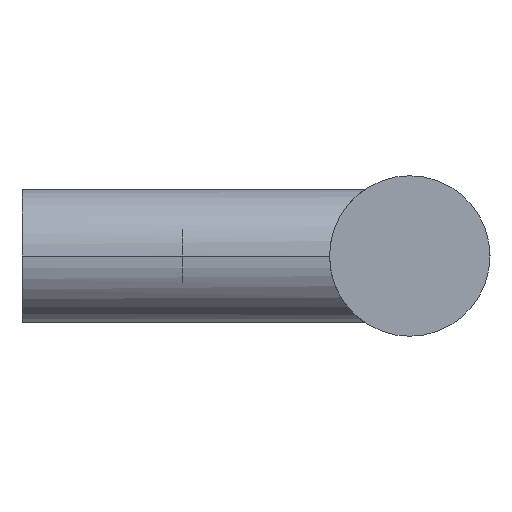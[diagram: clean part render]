
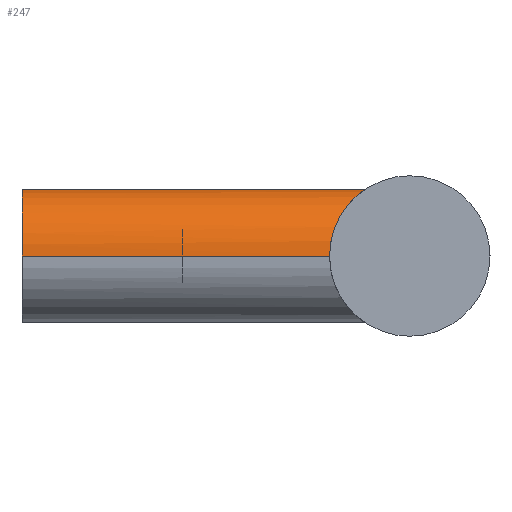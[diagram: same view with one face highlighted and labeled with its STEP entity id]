
A CAD part, left-side view. The second image highlights one B-rep face of the part: STEP entity #247.
In plain terms, the highlighted cylindrical face has radius 5 mm (diameter 10 mm), a partial arc.
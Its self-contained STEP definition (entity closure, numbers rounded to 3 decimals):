
#157 = VERTEX_POINT( '', #381 );
#161 = VERTEX_POINT( '', #385 );
#167 = VERTEX_POINT( '', #392 );
#177 = EDGE_CURVE( '', #157, #167, #402, .T. );
#201 = VERTEX_POINT( '', #428 );
#207 = EDGE_CURVE( '', #167, #161, #434, .T. );
#241 = EDGE_CURVE( '', #271, #157, #474, .T. );
#247 = ADVANCED_FACE( '', ( #480 ), #481, .T. );
#263 = EDGE_CURVE( '', #161, #201, #498, .T. );
#271 = VERTEX_POINT( '', #507 );
#319 = EDGE_CURVE( '', #201, #271, #561, .T. );
#381 = CARTESIAN_POINT( '', ( -5., 0., 0. ) );
#385 = CARTESIAN_POINT( '', ( 5., -23., 0. ) );
#392 = CARTESIAN_POINT( '', ( 5., 0., 0. ) );
#402 = CIRCLE( '', #675, 5. );
#428 = CARTESIAN_POINT( '', ( 0., -25.683, 5. ) );
#434 = LINE( '', #731, #732 );
#474 = LINE( '', #837, #838 );
#480 = FACE_OUTER_BOUND( '', #844, .T. );
#481 = CYLINDRICAL_SURFACE( '', #845, 5. );
#498 = B_SPLINE_CURVE_WITH_KNOTS( '', 3, ( #885, #886, #887, #888, #889, #890, #891, #892, #893, #894, #895, #896, #897, #898, #899, #900, #901, #902 ), .UNSPECIFIED., .F., .F., ( 4, 2, 2, 2, 2, 2, 2, 2, 4 ), ( 24.483, 25.482, 26.481, 27.479, 28.478, 29.52, 30.561, 31.602, 32.643 ), .UNSPECIFIED. );
#507 = CARTESIAN_POINT( '', ( -5., -23., 0. ) );
#561 = B_SPLINE_CURVE_WITH_KNOTS( '', 3, ( #1035, #1036, #1037, #1038, #1039, #1040, #1041, #1042, #1043, #1044, #1045, #1046, #1047, #1048, #1049, #1050, #1051, #1052 ), .UNSPECIFIED., .F., .F., ( 4, 2, 2, 2, 2, 2, 2, 2, 4 ), ( 0., 1.041, 2.083, 3.124, 4.165, 5.164, 6.163, 7.162, 8.161 ), .UNSPECIFIED. );
#675 = AXIS2_PLACEMENT_3D( '', #1140, #1141, #1142 );
#731 = CARTESIAN_POINT( '', ( 5., 0., 0. ) );
#732 = VECTOR( '', #1171, 1. );
#837 = CARTESIAN_POINT( '', ( -5., 0., 0. ) );
#838 = VECTOR( '', #1217, 1. );
#844 = EDGE_LOOP( '', ( #1219, #1220, #1221, #1222, #1223 ) );
#845 = AXIS2_PLACEMENT_3D( '', #1224, #1225, #1226 );
#885 = CARTESIAN_POINT( '', ( 5., -23., 0. ) );
#886 = CARTESIAN_POINT( '', ( 5., -23., 0.333 ) );
#887 = CARTESIAN_POINT( '', ( 4.966, -23.028, 0.672 ) );
#888 = CARTESIAN_POINT( '', ( 4.83, -23.141, 1.335 ) );
#889 = CARTESIAN_POINT( '', ( 4.728, -23.225, 1.659 ) );
#890 = CARTESIAN_POINT( '', ( 4.467, -23.437, 2.272 ) );
#891 = CARTESIAN_POINT( '', ( 4.306, -23.566, 2.561 ) );
#892 = CARTESIAN_POINT( '', ( 3.946, -23.847, 3.088 ) );
#893 = CARTESIAN_POINT( '', ( 3.745, -24., 3.326 ) );
#894 = CARTESIAN_POINT( '', ( 3.317, -24.311, 3.754 ) );
#895 = CARTESIAN_POINT( '', ( 3.073, -24.483, 3.957 ) );
#896 = CARTESIAN_POINT( '', ( 2.544, -24.825, 4.316 ) );
#897 = CARTESIAN_POINT( '', ( 2.259, -24.995, 4.472 ) );
#898 = CARTESIAN_POINT( '', ( 1.659, -25.301, 4.728 ) );
#899 = CARTESIAN_POINT( '', ( 1.343, -25.436, 4.828 ) );
#900 = CARTESIAN_POINT( '', ( 0.687, -25.627, 4.964 ) );
#901 = CARTESIAN_POINT( '', ( 0.347, -25.683, 5. ) );
#902 = CARTESIAN_POINT( '', ( 0., -25.683, 5. ) );
#1035 = CARTESIAN_POINT( '', ( 0., -25.683, 5. ) );
#1036 = CARTESIAN_POINT( '', ( -0.347, -25.683, 5. ) );
#1037 = CARTESIAN_POINT( '', ( -0.687, -25.627, 4.964 ) );
#1038 = CARTESIAN_POINT( '', ( -1.343, -25.436, 4.828 ) );
#1039 = CARTESIAN_POINT( '', ( -1.659, -25.301, 4.728 ) );
#1040 = CARTESIAN_POINT( '', ( -2.259, -24.995, 4.472 ) );
#1041 = CARTESIAN_POINT( '', ( -2.544, -24.825, 4.316 ) );
#1042 = CARTESIAN_POINT( '', ( -3.073, -24.483, 3.957 ) );
#1043 = CARTESIAN_POINT( '', ( -3.317, -24.311, 3.754 ) );
#1044 = CARTESIAN_POINT( '', ( -3.745, -24., 3.326 ) );
#1045 = CARTESIAN_POINT( '', ( -3.946, -23.847, 3.088 ) );
#1046 = CARTESIAN_POINT( '', ( -4.306, -23.566, 2.561 ) );
#1047 = CARTESIAN_POINT( '', ( -4.467, -23.437, 2.272 ) );
#1048 = CARTESIAN_POINT( '', ( -4.728, -23.225, 1.659 ) );
#1049 = CARTESIAN_POINT( '', ( -4.83, -23.141, 1.335 ) );
#1050 = CARTESIAN_POINT( '', ( -4.966, -23.028, 0.672 ) );
#1051 = CARTESIAN_POINT( '', ( -5., -23., 0.333 ) );
#1052 = CARTESIAN_POINT( '', ( -5., -23., 0. ) );
#1140 = CARTESIAN_POINT( '', ( 0., 0., 0. ) );
#1141 = DIRECTION( '', ( 0., 1., 0. ) );
#1142 = DIRECTION( '', ( 1., 0., 0. ) );
#1171 = DIRECTION( '', ( 0., -1., 0. ) );
#1217 = DIRECTION( '', ( 0., 1., 0. ) );
#1219 = ORIENTED_EDGE( '', *, *, #207, .F. );
#1220 = ORIENTED_EDGE( '', *, *, #177, .F. );
#1221 = ORIENTED_EDGE( '', *, *, #241, .F. );
#1222 = ORIENTED_EDGE( '', *, *, #319, .F. );
#1223 = ORIENTED_EDGE( '', *, *, #263, .F. );
#1224 = CARTESIAN_POINT( '', ( 0., 0., 0. ) );
#1225 = DIRECTION( '', ( 0., 1., 0. ) );
#1226 = DIRECTION( '', ( 1., 0., 0. ) );
